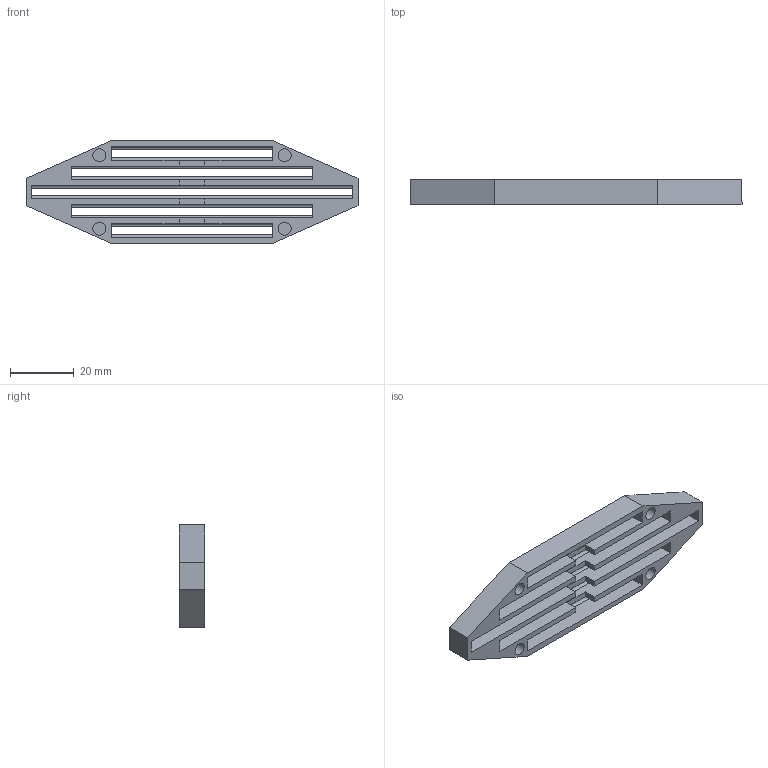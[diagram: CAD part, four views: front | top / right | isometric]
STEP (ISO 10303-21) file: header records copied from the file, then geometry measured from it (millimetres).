
FILE_DESCRIPTION(/* description */ (''),/* implementation_level */ '2;1');
FILE_NAME(/* name */ '1-22-1 Rear light top.step',/* time_stamp */ '2025-05-10T21:34:59+02:00',/* author */ (''),/* organization */ (''),/* preprocessor_version */ 'ST-DEVELOPER v20.1',/* originating_system */ 'Autodesk Translation Framework v14.4.0.0',/* authorisation */ '');
FILE_SCHEMA (('AUTOMOTIVE_DESIGN { 1 0 10303 214 3 1 1 }'));
Length unit declared in the file: millimetre
Products named in the file (1): 1-22-1 Rear light top
Bounding box: 104 x 8 x 32 mm (x, y, z)
Volume: 9705.1 mm3; surface area: 11415.6 mm2
Topology: 1 solids, 1 shells, 70 faces, 204 edges, 136 vertices
Faces by surface type: plane 56, cylinder 14
Full cylindrical faces by diameter (mm): 4.1 x4
Entity records: 2356 total; most frequent: CARTESIAN_POINT 411, ORIENTED_EDGE 408, DIRECTION 374, EDGE_CURVE 204, LINE 176, VECTOR 176, VERTEX_POINT 136, AXIS2_PLACEMENT_3D 99
